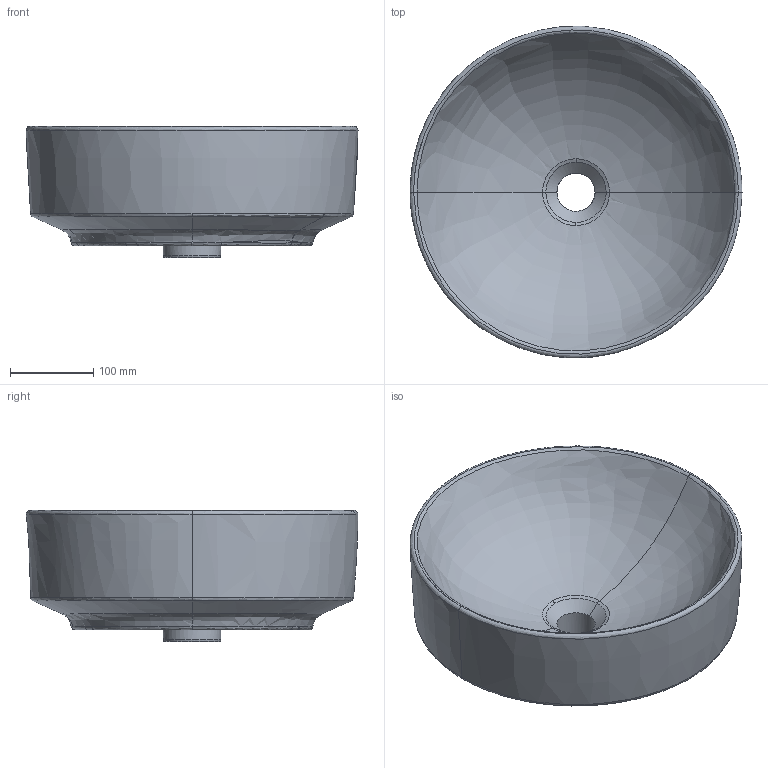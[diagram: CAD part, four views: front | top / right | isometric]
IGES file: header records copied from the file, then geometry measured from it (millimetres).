
Global section: file name: 500768; native system: Autodesk Inventor 2018; preprocessor: unknown; author: JANAN; date: 20200227.110741; units: millimetre
Bounding box: 400 x 399.35 x 158 mm (x, y, z)
Volume: 8648735.6 mm3; surface area: 437043.5 mm2
Topology: 1 solids, 1 shells, 77 faces, 224 edges, 145 vertices
Faces by surface type: bspline 77
